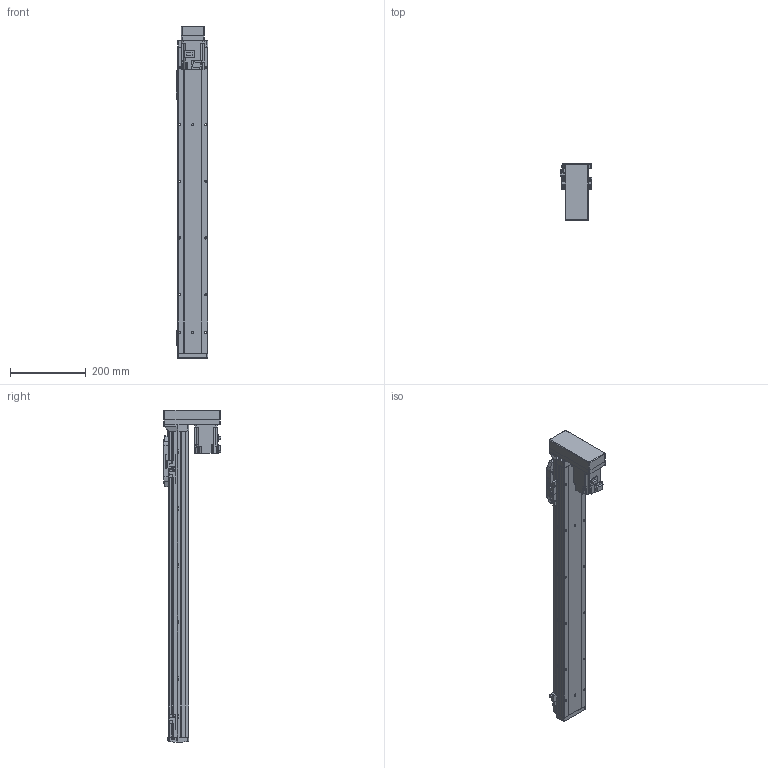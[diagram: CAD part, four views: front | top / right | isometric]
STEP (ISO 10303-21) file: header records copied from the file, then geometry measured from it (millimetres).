
FILE_DESCRIPTION (( 'STEP AP214' ), '1' );
FILE_NAME ('GSH8-650-BM-M20-1.step', '2025-01-07T06:08:53', ( '' ), ( '' ), 'SwSTEP 2.0', 'SolidWorks 2012', '' );
FILE_SCHEMA (( 'AUTOMOTIVE_DESIGN' ));
Length unit declared in the file: millimetre
Products named in the file (5): GSH8-650-BM-M20-1; GSH8-BL-008; GSH8-BL-011-650-M20; GSH8-GY-004; HG-KR23_200W_Motor
Assembly tree (4 placements, depth 2):
  GSH8-650-BM-M20-1
    GSH8-BL-011-650-M20
    GSH8-GY-004
    GSH8-BL-008
    HG-KR23_200W_Motor
Bounding box: 84 x 152.3 x 878.2 mm (x, y, z)
Volume: 2154570.4 mm3; surface area: 539029.1 mm2
Topology: 4 solids, 8 shells, 1133 faces, 2972 edges, 1912 vertices
Faces by surface type: plane 642, cylinder 395, torus 42, cone 26, bspline 24, sphere 4
Entity records: 45606 total; most frequent: CARTESIAN_POINT 11270, DIRECTION 6032, ORIENTED_EDGE 5928, EDGE_CURVE 2964, AXIS2_PLACEMENT_3D 2030, VECTOR 1972, LINE 1972, VERTEX_POINT 1908
